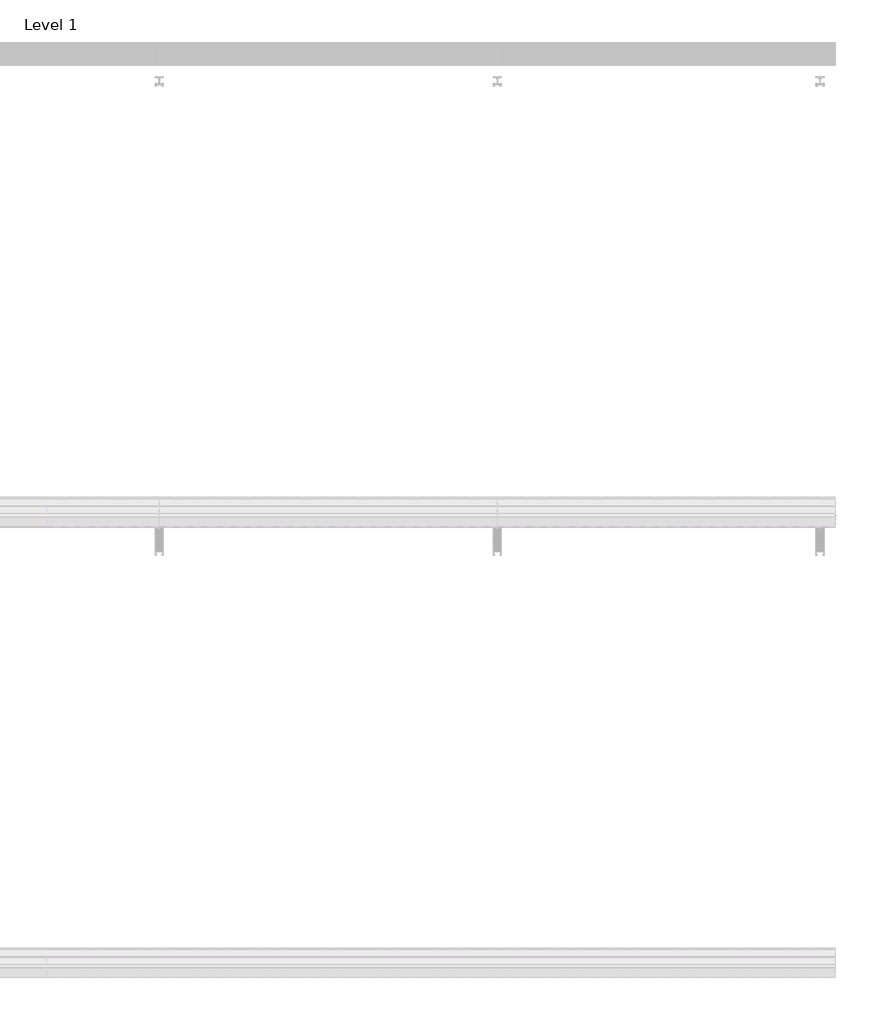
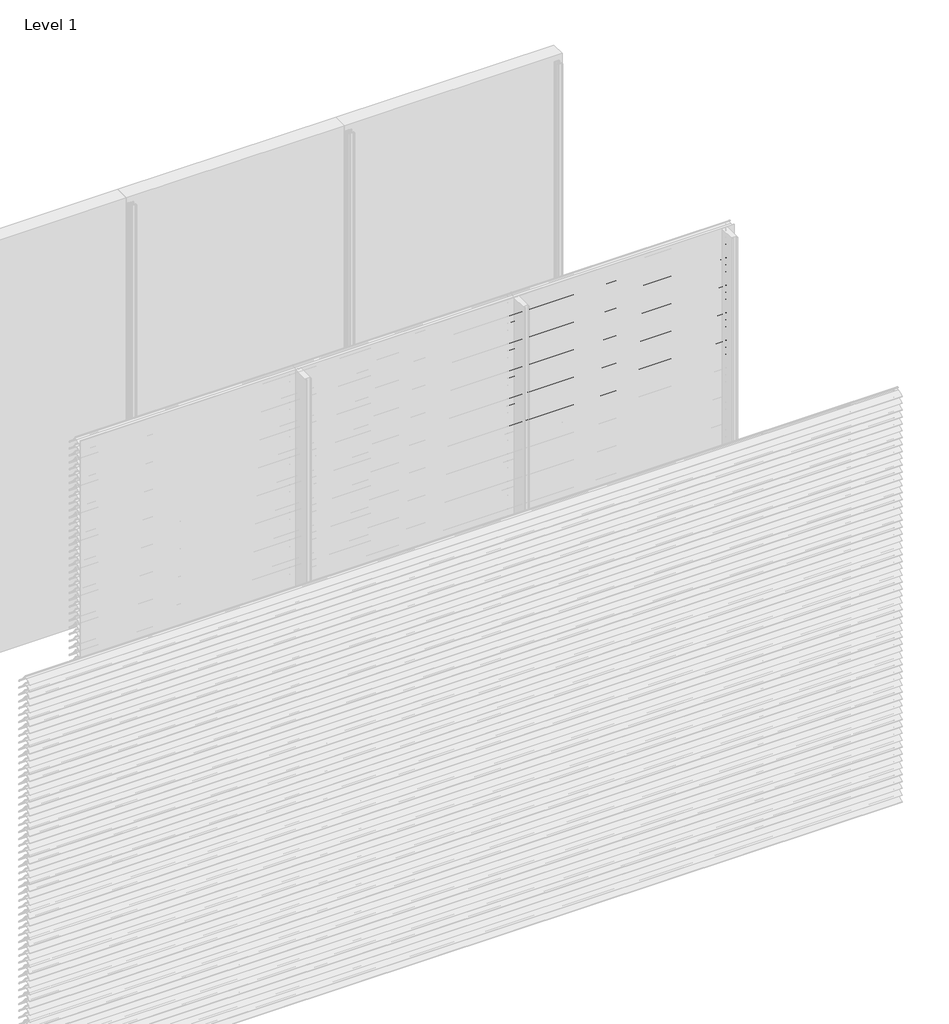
# One storey, part 34 of 173: 17 proxies.
"""IFC4 building model written with IfcOpenShell, lengths in millimetres."""

from ifc_helpers import new_model, si_unit, point, frame, frame_2d, origin, place, context, project, spatial, polyline, circle_curve, trimmed, segment, composite_curve, outline, extrude, element, save

model = new_model("IFC4")

# Units and contexts
model_context = context("Model", 3, world=origin())
ifc_project = project(units=[si_unit("LENGTHUNIT", "METRE", prefix="MILLI")], contexts=[model_context])

# Site, building, storey
site = spatial("IfcSite", under=ifc_project)
building = spatial("IfcBuilding", under=site)
storey = spatial("IfcBuildingStorey", under=building, Name="Level 1", Elevation=0.0)

# Proxies
placement = place(None, origin())
element("IfcBuildingElementProxy", 1, Name="Wall Sweeps", at=placement, inside=storey, context=model_context, shape_type="SweptSolid", body=[
    extrude(outline(composite_curve([segment(polyline([(-47998.0, 2809.1474905), (-47998.0, 2811.6227417)]), True, "CONTINUOUS"), segment(trimmed(circle_curve(frame_2d((-47951.2682172, 2766.2200208)), 65.1557103), [point((-47998.0, 2811.6227417))], [point((-47954.4014323, 2831.3003524))], False, "CARTESIAN"), True, "CONTINUOUS"), segment(polyline([(-47954.4014323, 2831.3003524), (-47934.8315836, 2831.3003524)]), True, "CONTINUOUS"), segment(trimmed(circle_curve(frame_2d((-47732.7329489, 2978.5533172)), 250.0545817), [point((-47934.8315836, 2831.3003524))], [point((-47941.4452143, 2840.8344583))], False, "CARTESIAN"), True, "CONTINUOUS"), segment(trimmed(circle_curve(frame_2d((-47953.2981792, 2835.1737835)), 13.1352966), [point((-47941.4452143, 2840.8344583))], [point((-47953.8171475, 2848.298824))], True, "CARTESIAN"), True, "CONTINUOUS"), segment(polyline([(-47953.8171475, 2848.298824), (-47953.8171475, 2850.0)]), True, "CONTINUOUS"), segment(trimmed(circle_curve(frame_2d((-47953.2981792, 2835.1737835)), 14.8352966), [point((-47953.8171475, 2850.0))], [point((-47939.9637661, 2841.6760487))], False, "CARTESIAN"), True, "CONTINUOUS"), segment(trimmed(circle_curve(frame_2d((-47732.7329489, 2978.5533172)), 248.3545817), [point((-47939.9637661, 2841.6760487))], [point((-47873.8787895, 2774.2059416))], True, "CARTESIAN"), True, "CONTINUOUS"), segment(trimmed(circle_curve(frame_2d((-47883.8147537, 2761.6649442)), 16.0), [point((-47873.8787895, 2774.2059416))], [point((-47867.8648347, 2760.4))], False, "CARTESIAN"), True, "CONTINUOUS"), segment(polyline([(-47867.8648347, 2760.4), (-47869.6712069, 2760.4)]), True, "CONTINUOUS"), segment(trimmed(circle_curve(frame_2d((-47883.8147537, 2761.6649442)), 14.2), [point((-47869.6712069, 2760.4))], [point((-47874.9518628, 2772.7594998))], True, "CARTESIAN"), True, "CONTINUOUS"), segment(trimmed(circle_curve(frame_2d((-47732.7329489, 2978.5533172)), 250.1545817), [point((-47874.9518628, 2772.7594998))], [point((-47933.7064024, 2829.6003524))], False, "CARTESIAN"), True, "CONTINUOUS"), segment(polyline([(-47933.7064024, 2829.6003524), (-47954.3602632, 2829.6003524)]), True, "CONTINUOUS"), segment(trimmed(circle_curve(frame_2d((-47951.2682172, 2766.2200208)), 63.4557103), [point((-47954.3602632, 2829.6003524))], [point((-47998.0, 2809.1474905))], True, "CARTESIAN"), True, "CONTINUOUS")], self_intersect=False)), frame((4500.0, 0.0, 0.0), z_axis=(1.0, 0.0, 0.0), x_axis=(0.0, 1.0, 0.0)), (0.0, 0.0, 1.0), 1500.0),
])
element("IfcBuildingElementProxy", 2, Name="Wall Sweeps", at=placement, inside=storey, context=model_context, shape_type="SweptSolid", body=[
    extrude(outline(composite_curve([segment(polyline([(-47998.0, 2759.1474905), (-47998.0, 2761.6227417)]), True, "CONTINUOUS"), segment(trimmed(circle_curve(frame_2d((-47951.2682172, 2716.2200208)), 65.1557103), [point((-47998.0, 2761.6227417))], [point((-47954.4014323, 2781.3003524))], False, "CARTESIAN"), True, "CONTINUOUS"), segment(polyline([(-47954.4014323, 2781.3003524), (-47934.8315836, 2781.3003524)]), True, "CONTINUOUS"), segment(trimmed(circle_curve(frame_2d((-47732.7329489, 2928.5533172)), 250.0545817), [point((-47934.8315836, 2781.3003524))], [point((-47941.4452143, 2790.8344583))], False, "CARTESIAN"), True, "CONTINUOUS"), segment(trimmed(circle_curve(frame_2d((-47953.2981792, 2785.1737835)), 13.1352966), [point((-47941.4452143, 2790.8344583))], [point((-47953.8171475, 2798.298824))], True, "CARTESIAN"), True, "CONTINUOUS"), segment(polyline([(-47953.8171475, 2798.298824), (-47953.8171475, 2800.0)]), True, "CONTINUOUS"), segment(trimmed(circle_curve(frame_2d((-47953.2981792, 2785.1737835)), 14.8352966), [point((-47953.8171475, 2800.0))], [point((-47939.9637661, 2791.6760487))], False, "CARTESIAN"), True, "CONTINUOUS"), segment(trimmed(circle_curve(frame_2d((-47732.7329489, 2928.5533172)), 248.3545817), [point((-47939.9637661, 2791.6760487))], [point((-47873.8787895, 2724.2059416))], True, "CARTESIAN"), True, "CONTINUOUS"), segment(trimmed(circle_curve(frame_2d((-47883.8147537, 2711.6649442)), 16.0), [point((-47873.8787895, 2724.2059416))], [point((-47867.8648347, 2710.4))], False, "CARTESIAN"), True, "CONTINUOUS"), segment(polyline([(-47867.8648347, 2710.4), (-47869.6712069, 2710.4)]), True, "CONTINUOUS"), segment(trimmed(circle_curve(frame_2d((-47883.8147537, 2711.6649442)), 14.2), [point((-47869.6712069, 2710.4))], [point((-47874.9518628, 2722.7594998))], True, "CARTESIAN"), True, "CONTINUOUS"), segment(trimmed(circle_curve(frame_2d((-47732.7329489, 2928.5533172)), 250.1545817), [point((-47874.9518628, 2722.7594998))], [point((-47933.7064024, 2779.6003524))], False, "CARTESIAN"), True, "CONTINUOUS"), segment(polyline([(-47933.7064024, 2779.6003524), (-47954.3602632, 2779.6003524)]), True, "CONTINUOUS"), segment(trimmed(circle_curve(frame_2d((-47951.2682172, 2716.2200208)), 63.4557103), [point((-47954.3602632, 2779.6003524))], [point((-47998.0, 2759.1474905))], True, "CARTESIAN"), True, "CONTINUOUS")], self_intersect=False)), frame((4500.0, 0.0, 0.0), z_axis=(1.0, 0.0, 0.0), x_axis=(0.0, 1.0, 0.0)), (0.0, 0.0, 1.0), 1500.0),
])
element("IfcBuildingElementProxy", 3, Name="Wall Sweeps", at=placement, inside=storey, context=model_context, shape_type="SweptSolid", body=[
    extrude(outline(composite_curve([segment(polyline([(-47998.0, 2709.1474905), (-47998.0, 2711.6227417)]), True, "CONTINUOUS"), segment(trimmed(circle_curve(frame_2d((-47951.2682172, 2666.2200208)), 65.1557103), [point((-47998.0, 2711.6227417))], [point((-47954.4014323, 2731.3003524))], False, "CARTESIAN"), True, "CONTINUOUS"), segment(polyline([(-47954.4014323, 2731.3003524), (-47934.8315836, 2731.3003524)]), True, "CONTINUOUS"), segment(trimmed(circle_curve(frame_2d((-47732.7329489, 2878.5533172)), 250.0545817), [point((-47934.8315836, 2731.3003524))], [point((-47941.4452143, 2740.8344583))], False, "CARTESIAN"), True, "CONTINUOUS"), segment(trimmed(circle_curve(frame_2d((-47953.2981792, 2735.1737835)), 13.1352966), [point((-47941.4452143, 2740.8344583))], [point((-47953.8171475, 2748.298824))], True, "CARTESIAN"), True, "CONTINUOUS"), segment(polyline([(-47953.8171475, 2748.298824), (-47953.8171475, 2750.0)]), True, "CONTINUOUS"), segment(trimmed(circle_curve(frame_2d((-47953.2981792, 2735.1737835)), 14.8352966), [point((-47953.8171475, 2750.0))], [point((-47939.9637661, 2741.6760487))], False, "CARTESIAN"), True, "CONTINUOUS"), segment(trimmed(circle_curve(frame_2d((-47732.7329489, 2878.5533172)), 248.3545817), [point((-47939.9637661, 2741.6760487))], [point((-47873.8787895, 2674.2059416))], True, "CARTESIAN"), True, "CONTINUOUS"), segment(trimmed(circle_curve(frame_2d((-47883.8147537, 2661.6649442)), 16.0), [point((-47873.8787895, 2674.2059416))], [point((-47867.8648347, 2660.4))], False, "CARTESIAN"), True, "CONTINUOUS"), segment(polyline([(-47867.8648347, 2660.4), (-47869.6712069, 2660.4)]), True, "CONTINUOUS"), segment(trimmed(circle_curve(frame_2d((-47883.8147537, 2661.6649442)), 14.2), [point((-47869.6712069, 2660.4))], [point((-47874.9518628, 2672.7594998))], True, "CARTESIAN"), True, "CONTINUOUS"), segment(trimmed(circle_curve(frame_2d((-47732.7329489, 2878.5533172)), 250.1545817), [point((-47874.9518628, 2672.7594998))], [point((-47933.7064024, 2729.6003524))], False, "CARTESIAN"), True, "CONTINUOUS"), segment(polyline([(-47933.7064024, 2729.6003524), (-47954.3602632, 2729.6003524)]), True, "CONTINUOUS"), segment(trimmed(circle_curve(frame_2d((-47951.2682172, 2666.2200208)), 63.4557103), [point((-47954.3602632, 2729.6003524))], [point((-47998.0, 2709.1474905))], True, "CARTESIAN"), True, "CONTINUOUS")], self_intersect=False)), frame((4500.0, 0.0, 0.0), z_axis=(1.0, 0.0, 0.0), x_axis=(0.0, 1.0, 0.0)), (0.0, 0.0, 1.0), 1500.0),
])
element("IfcBuildingElementProxy", 4, Name="Wall Sweeps", at=placement, inside=storey, context=model_context, shape_type="SweptSolid", body=[
    extrude(outline(composite_curve([segment(polyline([(-47998.0, 2659.1474905), (-47998.0, 2661.6227417)]), True, "CONTINUOUS"), segment(trimmed(circle_curve(frame_2d((-47951.2682172, 2616.2200208)), 65.1557103), [point((-47998.0, 2661.6227417))], [point((-47954.4014323, 2681.3003524))], False, "CARTESIAN"), True, "CONTINUOUS"), segment(polyline([(-47954.4014323, 2681.3003524), (-47934.8315836, 2681.3003524)]), True, "CONTINUOUS"), segment(trimmed(circle_curve(frame_2d((-47732.7329489, 2828.5533172)), 250.0545817), [point((-47934.8315836, 2681.3003524))], [point((-47941.4452143, 2690.8344583))], False, "CARTESIAN"), True, "CONTINUOUS"), segment(trimmed(circle_curve(frame_2d((-47953.2981792, 2685.1737835)), 13.1352966), [point((-47941.4452143, 2690.8344583))], [point((-47953.8171475, 2698.298824))], True, "CARTESIAN"), True, "CONTINUOUS"), segment(polyline([(-47953.8171475, 2698.298824), (-47953.8171475, 2700.0)]), True, "CONTINUOUS"), segment(trimmed(circle_curve(frame_2d((-47953.2981792, 2685.1737835)), 14.8352966), [point((-47953.8171475, 2700.0))], [point((-47939.9637661, 2691.6760487))], False, "CARTESIAN"), True, "CONTINUOUS"), segment(trimmed(circle_curve(frame_2d((-47732.7329489, 2828.5533172)), 248.3545817), [point((-47939.9637661, 2691.6760487))], [point((-47873.8787895, 2624.2059416))], True, "CARTESIAN"), True, "CONTINUOUS"), segment(trimmed(circle_curve(frame_2d((-47883.8147537, 2611.6649442)), 16.0), [point((-47873.8787895, 2624.2059416))], [point((-47867.8648347, 2610.4))], False, "CARTESIAN"), True, "CONTINUOUS"), segment(polyline([(-47867.8648347, 2610.4), (-47869.6712069, 2610.4)]), True, "CONTINUOUS"), segment(trimmed(circle_curve(frame_2d((-47883.8147537, 2611.6649442)), 14.2), [point((-47869.6712069, 2610.4))], [point((-47874.9518628, 2622.7594998))], True, "CARTESIAN"), True, "CONTINUOUS"), segment(trimmed(circle_curve(frame_2d((-47732.7329489, 2828.5533172)), 250.1545817), [point((-47874.9518628, 2622.7594998))], [point((-47933.7064024, 2679.6003524))], False, "CARTESIAN"), True, "CONTINUOUS"), segment(polyline([(-47933.7064024, 2679.6003524), (-47954.3602632, 2679.6003524)]), True, "CONTINUOUS"), segment(trimmed(circle_curve(frame_2d((-47951.2682172, 2616.2200208)), 63.4557103), [point((-47954.3602632, 2679.6003524))], [point((-47998.0, 2659.1474905))], True, "CARTESIAN"), True, "CONTINUOUS")], self_intersect=False)), frame((4500.0, 0.0, 0.0), z_axis=(1.0, 0.0, 0.0), x_axis=(0.0, 1.0, 0.0)), (0.0, 0.0, 1.0), 1500.0),
])
element("IfcBuildingElementProxy", 5, Name="Wall Sweeps", at=placement, inside=storey, context=model_context, shape_type="SweptSolid", body=[
    extrude(outline(composite_curve([segment(polyline([(-47998.0, 2609.1474905), (-47998.0, 2611.6227417)]), True, "CONTINUOUS"), segment(trimmed(circle_curve(frame_2d((-47951.2682172, 2566.2200208)), 65.1557103), [point((-47998.0, 2611.6227417))], [point((-47954.4014323, 2631.3003524))], False, "CARTESIAN"), True, "CONTINUOUS"), segment(polyline([(-47954.4014323, 2631.3003524), (-47934.8315836, 2631.3003524)]), True, "CONTINUOUS"), segment(trimmed(circle_curve(frame_2d((-47732.7329489, 2778.5533172)), 250.0545817), [point((-47934.8315836, 2631.3003524))], [point((-47941.4452143, 2640.8344583))], False, "CARTESIAN"), True, "CONTINUOUS"), segment(trimmed(circle_curve(frame_2d((-47953.2981792, 2635.1737835)), 13.1352966), [point((-47941.4452143, 2640.8344583))], [point((-47953.8171475, 2648.298824))], True, "CARTESIAN"), True, "CONTINUOUS"), segment(polyline([(-47953.8171475, 2648.298824), (-47953.8171475, 2650.0)]), True, "CONTINUOUS"), segment(trimmed(circle_curve(frame_2d((-47953.2981792, 2635.1737835)), 14.8352966), [point((-47953.8171475, 2650.0))], [point((-47939.9637661, 2641.6760487))], False, "CARTESIAN"), True, "CONTINUOUS"), segment(trimmed(circle_curve(frame_2d((-47732.7329489, 2778.5533172)), 248.3545817), [point((-47939.9637661, 2641.6760487))], [point((-47873.8787895, 2574.2059416))], True, "CARTESIAN"), True, "CONTINUOUS"), segment(trimmed(circle_curve(frame_2d((-47883.8147537, 2561.6649442)), 16.0), [point((-47873.8787895, 2574.2059416))], [point((-47867.8648347, 2560.4))], False, "CARTESIAN"), True, "CONTINUOUS"), segment(polyline([(-47867.8648347, 2560.4), (-47869.6712069, 2560.4)]), True, "CONTINUOUS"), segment(trimmed(circle_curve(frame_2d((-47883.8147537, 2561.6649442)), 14.2), [point((-47869.6712069, 2560.4))], [point((-47874.9518628, 2572.7594998))], True, "CARTESIAN"), True, "CONTINUOUS"), segment(trimmed(circle_curve(frame_2d((-47732.7329489, 2778.5533172)), 250.1545817), [point((-47874.9518628, 2572.7594998))], [point((-47933.7064024, 2629.6003524))], False, "CARTESIAN"), True, "CONTINUOUS"), segment(polyline([(-47933.7064024, 2629.6003524), (-47954.3602632, 2629.6003524)]), True, "CONTINUOUS"), segment(trimmed(circle_curve(frame_2d((-47951.2682172, 2566.2200208)), 63.4557103), [point((-47954.3602632, 2629.6003524))], [point((-47998.0, 2609.1474905))], True, "CARTESIAN"), True, "CONTINUOUS")], self_intersect=False)), frame((4500.0, 0.0, 0.0), z_axis=(1.0, 0.0, 0.0), x_axis=(0.0, 1.0, 0.0)), (0.0, 0.0, 1.0), 1500.0),
])
element("IfcBuildingElementProxy", 6, Name="Wall Sweeps", at=placement, inside=storey, context=model_context, shape_type="SweptSolid", body=[
    extrude(outline(composite_curve([segment(polyline([(-47998.0, 2559.1474905), (-47998.0, 2561.6227417)]), True, "CONTINUOUS"), segment(trimmed(circle_curve(frame_2d((-47951.2682172, 2516.2200208)), 65.1557103), [point((-47998.0, 2561.6227417))], [point((-47954.4014323, 2581.3003524))], False, "CARTESIAN"), True, "CONTINUOUS"), segment(polyline([(-47954.4014323, 2581.3003524), (-47934.8315836, 2581.3003524)]), True, "CONTINUOUS"), segment(trimmed(circle_curve(frame_2d((-47732.7329489, 2728.5533172)), 250.0545817), [point((-47934.8315836, 2581.3003524))], [point((-47941.4452143, 2590.8344583))], False, "CARTESIAN"), True, "CONTINUOUS"), segment(trimmed(circle_curve(frame_2d((-47953.2981792, 2585.1737835)), 13.1352966), [point((-47941.4452143, 2590.8344583))], [point((-47953.8171475, 2598.298824))], True, "CARTESIAN"), True, "CONTINUOUS"), segment(polyline([(-47953.8171475, 2598.298824), (-47953.8171475, 2600.0)]), True, "CONTINUOUS"), segment(trimmed(circle_curve(frame_2d((-47953.2981792, 2585.1737835)), 14.8352966), [point((-47953.8171475, 2600.0))], [point((-47939.9637661, 2591.6760487))], False, "CARTESIAN"), True, "CONTINUOUS"), segment(trimmed(circle_curve(frame_2d((-47732.7329489, 2728.5533172)), 248.3545817), [point((-47939.9637661, 2591.6760487))], [point((-47873.8787895, 2524.2059416))], True, "CARTESIAN"), True, "CONTINUOUS"), segment(trimmed(circle_curve(frame_2d((-47883.8147537, 2511.6649442)), 16.0), [point((-47873.8787895, 2524.2059416))], [point((-47867.8648347, 2510.4))], False, "CARTESIAN"), True, "CONTINUOUS"), segment(polyline([(-47867.8648347, 2510.4), (-47869.6712069, 2510.4)]), True, "CONTINUOUS"), segment(trimmed(circle_curve(frame_2d((-47883.8147537, 2511.6649442)), 14.2), [point((-47869.6712069, 2510.4))], [point((-47874.9518628, 2522.7594998))], True, "CARTESIAN"), True, "CONTINUOUS"), segment(trimmed(circle_curve(frame_2d((-47732.7329489, 2728.5533172)), 250.1545817), [point((-47874.9518628, 2522.7594998))], [point((-47933.7064024, 2579.6003524))], False, "CARTESIAN"), True, "CONTINUOUS"), segment(polyline([(-47933.7064024, 2579.6003524), (-47954.3602632, 2579.6003524)]), True, "CONTINUOUS"), segment(trimmed(circle_curve(frame_2d((-47951.2682172, 2516.2200208)), 63.4557103), [point((-47954.3602632, 2579.6003524))], [point((-47998.0, 2559.1474905))], True, "CARTESIAN"), True, "CONTINUOUS")], self_intersect=False)), frame((4500.0, 0.0, 0.0), z_axis=(1.0, 0.0, 0.0), x_axis=(0.0, 1.0, 0.0)), (0.0, 0.0, 1.0), 1500.0),
])
element("IfcBuildingElementProxy", 7, Name="Wall Sweeps", at=placement, inside=storey, context=model_context, shape_type="SweptSolid", body=[
    extrude(outline(composite_curve([segment(polyline([(-47998.0, 2509.1474905), (-47998.0, 2511.6227417)]), True, "CONTINUOUS"), segment(trimmed(circle_curve(frame_2d((-47951.2682172, 2466.2200208)), 65.1557103), [point((-47998.0, 2511.6227417))], [point((-47954.4014323, 2531.3003524))], False, "CARTESIAN"), True, "CONTINUOUS"), segment(polyline([(-47954.4014323, 2531.3003524), (-47934.8315836, 2531.3003524)]), True, "CONTINUOUS"), segment(trimmed(circle_curve(frame_2d((-47732.7329489, 2678.5533172)), 250.0545817), [point((-47934.8315836, 2531.3003524))], [point((-47941.4452143, 2540.8344583))], False, "CARTESIAN"), True, "CONTINUOUS"), segment(trimmed(circle_curve(frame_2d((-47953.2981792, 2535.1737835)), 13.1352966), [point((-47941.4452143, 2540.8344583))], [point((-47953.8171475, 2548.298824))], True, "CARTESIAN"), True, "CONTINUOUS"), segment(polyline([(-47953.8171475, 2548.298824), (-47953.8171475, 2550.0)]), True, "CONTINUOUS"), segment(trimmed(circle_curve(frame_2d((-47953.2981792, 2535.1737835)), 14.8352966), [point((-47953.8171475, 2550.0))], [point((-47939.9637661, 2541.6760487))], False, "CARTESIAN"), True, "CONTINUOUS"), segment(trimmed(circle_curve(frame_2d((-47732.7329489, 2678.5533172)), 248.3545817), [point((-47939.9637661, 2541.6760487))], [point((-47873.8787895, 2474.2059416))], True, "CARTESIAN"), True, "CONTINUOUS"), segment(trimmed(circle_curve(frame_2d((-47883.8147537, 2461.6649442)), 16.0), [point((-47873.8787895, 2474.2059416))], [point((-47867.8648347, 2460.4))], False, "CARTESIAN"), True, "CONTINUOUS"), segment(polyline([(-47867.8648347, 2460.4), (-47869.6712069, 2460.4)]), True, "CONTINUOUS"), segment(trimmed(circle_curve(frame_2d((-47883.8147537, 2461.6649442)), 14.2), [point((-47869.6712069, 2460.4))], [point((-47874.9518628, 2472.7594998))], True, "CARTESIAN"), True, "CONTINUOUS"), segment(trimmed(circle_curve(frame_2d((-47732.7329489, 2678.5533172)), 250.1545817), [point((-47874.9518628, 2472.7594998))], [point((-47933.7064024, 2529.6003524))], False, "CARTESIAN"), True, "CONTINUOUS"), segment(polyline([(-47933.7064024, 2529.6003524), (-47954.3602632, 2529.6003524)]), True, "CONTINUOUS"), segment(trimmed(circle_curve(frame_2d((-47951.2682172, 2466.2200208)), 63.4557103), [point((-47954.3602632, 2529.6003524))], [point((-47998.0, 2509.1474905))], True, "CARTESIAN"), True, "CONTINUOUS")], self_intersect=False)), frame((4500.0, 0.0, 0.0), z_axis=(1.0, 0.0, 0.0), x_axis=(0.0, 1.0, 0.0)), (0.0, 0.0, 1.0), 1500.0),
])
element("IfcBuildingElementProxy", 8, Name="Wall Sweeps", at=placement, inside=storey, context=model_context, shape_type="SweptSolid", body=[
    extrude(outline(composite_curve([segment(polyline([(-47998.0, 2459.1474905), (-47998.0, 2461.6227417)]), True, "CONTINUOUS"), segment(trimmed(circle_curve(frame_2d((-47951.2682172, 2416.2200208)), 65.1557103), [point((-47998.0, 2461.6227417))], [point((-47954.4014323, 2481.3003524))], False, "CARTESIAN"), True, "CONTINUOUS"), segment(polyline([(-47954.4014323, 2481.3003524), (-47934.8315836, 2481.3003524)]), True, "CONTINUOUS"), segment(trimmed(circle_curve(frame_2d((-47732.7329489, 2628.5533172)), 250.0545817), [point((-47934.8315836, 2481.3003524))], [point((-47941.4452143, 2490.8344583))], False, "CARTESIAN"), True, "CONTINUOUS"), segment(trimmed(circle_curve(frame_2d((-47953.2981792, 2485.1737835)), 13.1352966), [point((-47941.4452143, 2490.8344583))], [point((-47953.8171475, 2498.298824))], True, "CARTESIAN"), True, "CONTINUOUS"), segment(polyline([(-47953.8171475, 2498.298824), (-47953.8171475, 2500.0)]), True, "CONTINUOUS"), segment(trimmed(circle_curve(frame_2d((-47953.2981792, 2485.1737835)), 14.8352966), [point((-47953.8171475, 2500.0))], [point((-47939.9637661, 2491.6760487))], False, "CARTESIAN"), True, "CONTINUOUS"), segment(trimmed(circle_curve(frame_2d((-47732.7329489, 2628.5533172)), 248.3545817), [point((-47939.9637661, 2491.6760487))], [point((-47873.8787895, 2424.2059416))], True, "CARTESIAN"), True, "CONTINUOUS"), segment(trimmed(circle_curve(frame_2d((-47883.8147537, 2411.6649442)), 16.0), [point((-47873.8787895, 2424.2059416))], [point((-47867.8648347, 2410.4))], False, "CARTESIAN"), True, "CONTINUOUS"), segment(polyline([(-47867.8648347, 2410.4), (-47869.6712069, 2410.4)]), True, "CONTINUOUS"), segment(trimmed(circle_curve(frame_2d((-47883.8147537, 2411.6649442)), 14.2), [point((-47869.6712069, 2410.4))], [point((-47874.9518628, 2422.7594998))], True, "CARTESIAN"), True, "CONTINUOUS"), segment(trimmed(circle_curve(frame_2d((-47732.7329489, 2628.5533172)), 250.1545817), [point((-47874.9518628, 2422.7594998))], [point((-47933.7064024, 2479.6003524))], False, "CARTESIAN"), True, "CONTINUOUS"), segment(polyline([(-47933.7064024, 2479.6003524), (-47954.3602632, 2479.6003524)]), True, "CONTINUOUS"), segment(trimmed(circle_curve(frame_2d((-47951.2682172, 2416.2200208)), 63.4557103), [point((-47954.3602632, 2479.6003524))], [point((-47998.0, 2459.1474905))], True, "CARTESIAN"), True, "CONTINUOUS")], self_intersect=False)), frame((4500.0, 0.0, 0.0), z_axis=(1.0, 0.0, 0.0), x_axis=(0.0, 1.0, 0.0)), (0.0, 0.0, 1.0), 1500.0),
])
element("IfcBuildingElementProxy", 9, Name="Wall Sweeps", at=placement, inside=storey, context=model_context, shape_type="SweptSolid", body=[
    extrude(outline(composite_curve([segment(polyline([(-47998.0, 2409.1474905), (-47998.0, 2411.6227417)]), True, "CONTINUOUS"), segment(trimmed(circle_curve(frame_2d((-47951.2682172, 2366.2200208)), 65.1557103), [point((-47998.0, 2411.6227417))], [point((-47954.4014323, 2431.3003524))], False, "CARTESIAN"), True, "CONTINUOUS"), segment(polyline([(-47954.4014323, 2431.3003524), (-47934.8315836, 2431.3003524)]), True, "CONTINUOUS"), segment(trimmed(circle_curve(frame_2d((-47732.7329489, 2578.5533172)), 250.0545817), [point((-47934.8315836, 2431.3003524))], [point((-47941.4452143, 2440.8344583))], False, "CARTESIAN"), True, "CONTINUOUS"), segment(trimmed(circle_curve(frame_2d((-47953.2981792, 2435.1737835)), 13.1352966), [point((-47941.4452143, 2440.8344583))], [point((-47953.8171475, 2448.298824))], True, "CARTESIAN"), True, "CONTINUOUS"), segment(polyline([(-47953.8171475, 2448.298824), (-47953.8171475, 2450.0)]), True, "CONTINUOUS"), segment(trimmed(circle_curve(frame_2d((-47953.2981792, 2435.1737835)), 14.8352966), [point((-47953.8171475, 2450.0))], [point((-47939.9637661, 2441.6760487))], False, "CARTESIAN"), True, "CONTINUOUS"), segment(trimmed(circle_curve(frame_2d((-47732.7329489, 2578.5533172)), 248.3545817), [point((-47939.9637661, 2441.6760487))], [point((-47873.8787895, 2374.2059416))], True, "CARTESIAN"), True, "CONTINUOUS"), segment(trimmed(circle_curve(frame_2d((-47883.8147537, 2361.6649442)), 16.0), [point((-47873.8787895, 2374.2059416))], [point((-47867.8648347, 2360.4))], False, "CARTESIAN"), True, "CONTINUOUS"), segment(polyline([(-47867.8648347, 2360.4), (-47869.6712069, 2360.4)]), True, "CONTINUOUS"), segment(trimmed(circle_curve(frame_2d((-47883.8147537, 2361.6649442)), 14.2), [point((-47869.6712069, 2360.4))], [point((-47874.9518628, 2372.7594998))], True, "CARTESIAN"), True, "CONTINUOUS"), segment(trimmed(circle_curve(frame_2d((-47732.7329489, 2578.5533172)), 250.1545817), [point((-47874.9518628, 2372.7594998))], [point((-47933.7064024, 2429.6003524))], False, "CARTESIAN"), True, "CONTINUOUS"), segment(polyline([(-47933.7064024, 2429.6003524), (-47954.3602632, 2429.6003524)]), True, "CONTINUOUS"), segment(trimmed(circle_curve(frame_2d((-47951.2682172, 2366.2200208)), 63.4557103), [point((-47954.3602632, 2429.6003524))], [point((-47998.0, 2409.1474905))], True, "CARTESIAN"), True, "CONTINUOUS")], self_intersect=False)), frame((4500.0, 0.0, 0.0), z_axis=(1.0, 0.0, 0.0), x_axis=(0.0, 1.0, 0.0)), (0.0, 0.0, 1.0), 1500.0),
])
element("IfcBuildingElementProxy", 10, Name="Wall Sweeps", at=placement, inside=storey, context=model_context, shape_type="SweptSolid", body=[
    extrude(outline(composite_curve([segment(polyline([(-47998.0, 2359.1474905), (-47998.0, 2361.6227417)]), True, "CONTINUOUS"), segment(trimmed(circle_curve(frame_2d((-47951.2682172, 2316.2200208)), 65.1557103), [point((-47998.0, 2361.6227417))], [point((-47954.4014323, 2381.3003524))], False, "CARTESIAN"), True, "CONTINUOUS"), segment(polyline([(-47954.4014323, 2381.3003524), (-47934.8315836, 2381.3003524)]), True, "CONTINUOUS"), segment(trimmed(circle_curve(frame_2d((-47732.7329489, 2528.5533172)), 250.0545817), [point((-47934.8315836, 2381.3003524))], [point((-47941.4452143, 2390.8344583))], False, "CARTESIAN"), True, "CONTINUOUS"), segment(trimmed(circle_curve(frame_2d((-47953.2981792, 2385.1737835)), 13.1352966), [point((-47941.4452143, 2390.8344583))], [point((-47953.8171475, 2398.298824))], True, "CARTESIAN"), True, "CONTINUOUS"), segment(polyline([(-47953.8171475, 2398.298824), (-47953.8171475, 2400.0)]), True, "CONTINUOUS"), segment(trimmed(circle_curve(frame_2d((-47953.2981792, 2385.1737835)), 14.8352966), [point((-47953.8171475, 2400.0))], [point((-47939.9637661, 2391.6760487))], False, "CARTESIAN"), True, "CONTINUOUS"), segment(trimmed(circle_curve(frame_2d((-47732.7329489, 2528.5533172)), 248.3545817), [point((-47939.9637661, 2391.6760487))], [point((-47873.8787895, 2324.2059416))], True, "CARTESIAN"), True, "CONTINUOUS"), segment(trimmed(circle_curve(frame_2d((-47883.8147537, 2311.6649442)), 16.0), [point((-47873.8787895, 2324.2059416))], [point((-47867.8648347, 2310.4))], False, "CARTESIAN"), True, "CONTINUOUS"), segment(polyline([(-47867.8648347, 2310.4), (-47869.6712069, 2310.4)]), True, "CONTINUOUS"), segment(trimmed(circle_curve(frame_2d((-47883.8147537, 2311.6649442)), 14.2), [point((-47869.6712069, 2310.4))], [point((-47874.9518628, 2322.7594998))], True, "CARTESIAN"), True, "CONTINUOUS"), segment(trimmed(circle_curve(frame_2d((-47732.7329489, 2528.5533172)), 250.1545817), [point((-47874.9518628, 2322.7594998))], [point((-47933.7064024, 2379.6003524))], False, "CARTESIAN"), True, "CONTINUOUS"), segment(polyline([(-47933.7064024, 2379.6003524), (-47954.3602632, 2379.6003524)]), True, "CONTINUOUS"), segment(trimmed(circle_curve(frame_2d((-47951.2682172, 2316.2200208)), 63.4557103), [point((-47954.3602632, 2379.6003524))], [point((-47998.0, 2359.1474905))], True, "CARTESIAN"), True, "CONTINUOUS")], self_intersect=False)), frame((4500.0, 0.0, 0.0), z_axis=(1.0, 0.0, 0.0), x_axis=(0.0, 1.0, 0.0)), (0.0, 0.0, 1.0), 1500.0),
])
element("IfcBuildingElementProxy", 11, Name="Wall Sweeps", at=placement, inside=storey, context=model_context, shape_type="SweptSolid", body=[
    extrude(outline(composite_curve([segment(polyline([(-47998.0, 2309.1474905), (-47998.0, 2311.6227417)]), True, "CONTINUOUS"), segment(trimmed(circle_curve(frame_2d((-47951.2682172, 2266.2200208)), 65.1557103), [point((-47998.0, 2311.6227417))], [point((-47954.4014323, 2331.3003524))], False, "CARTESIAN"), True, "CONTINUOUS"), segment(polyline([(-47954.4014323, 2331.3003524), (-47934.8315836, 2331.3003524)]), True, "CONTINUOUS"), segment(trimmed(circle_curve(frame_2d((-47732.7329489, 2478.5533172)), 250.0545817), [point((-47934.8315836, 2331.3003524))], [point((-47941.4452143, 2340.8344583))], False, "CARTESIAN"), True, "CONTINUOUS"), segment(trimmed(circle_curve(frame_2d((-47953.2981792, 2335.1737835)), 13.1352966), [point((-47941.4452143, 2340.8344583))], [point((-47953.8171475, 2348.298824))], True, "CARTESIAN"), True, "CONTINUOUS"), segment(polyline([(-47953.8171475, 2348.298824), (-47953.8171475, 2350.0)]), True, "CONTINUOUS"), segment(trimmed(circle_curve(frame_2d((-47953.2981792, 2335.1737835)), 14.8352966), [point((-47953.8171475, 2350.0))], [point((-47939.9637661, 2341.6760487))], False, "CARTESIAN"), True, "CONTINUOUS"), segment(trimmed(circle_curve(frame_2d((-47732.7329489, 2478.5533172)), 248.3545817), [point((-47939.9637661, 2341.6760487))], [point((-47873.8787895, 2274.2059416))], True, "CARTESIAN"), True, "CONTINUOUS"), segment(trimmed(circle_curve(frame_2d((-47883.8147537, 2261.6649442)), 16.0), [point((-47873.8787895, 2274.2059416))], [point((-47867.8648347, 2260.4))], False, "CARTESIAN"), True, "CONTINUOUS"), segment(polyline([(-47867.8648347, 2260.4), (-47869.6712069, 2260.4)]), True, "CONTINUOUS"), segment(trimmed(circle_curve(frame_2d((-47883.8147537, 2261.6649442)), 14.2), [point((-47869.6712069, 2260.4))], [point((-47874.9518628, 2272.7594998))], True, "CARTESIAN"), True, "CONTINUOUS"), segment(trimmed(circle_curve(frame_2d((-47732.7329489, 2478.5533172)), 250.1545817), [point((-47874.9518628, 2272.7594998))], [point((-47933.7064024, 2329.6003524))], False, "CARTESIAN"), True, "CONTINUOUS"), segment(polyline([(-47933.7064024, 2329.6003524), (-47954.3602632, 2329.6003524)]), True, "CONTINUOUS"), segment(trimmed(circle_curve(frame_2d((-47951.2682172, 2266.2200208)), 63.4557103), [point((-47954.3602632, 2329.6003524))], [point((-47998.0, 2309.1474905))], True, "CARTESIAN"), True, "CONTINUOUS")], self_intersect=False)), frame((4500.0, 0.0, 0.0), z_axis=(1.0, 0.0, 0.0), x_axis=(0.0, 1.0, 0.0)), (0.0, 0.0, 1.0), 1500.0),
])
element("IfcBuildingElementProxy", 12, Name="Wall Sweeps", at=placement, inside=storey, context=model_context, shape_type="SweptSolid", body=[
    extrude(outline(composite_curve([segment(polyline([(-47998.0, 2259.1474905), (-47998.0, 2261.6227417)]), True, "CONTINUOUS"), segment(trimmed(circle_curve(frame_2d((-47951.2682172, 2216.2200208)), 65.1557103), [point((-47998.0, 2261.6227417))], [point((-47954.4014323, 2281.3003524))], False, "CARTESIAN"), True, "CONTINUOUS"), segment(polyline([(-47954.4014323, 2281.3003524), (-47934.8315836, 2281.3003524)]), True, "CONTINUOUS"), segment(trimmed(circle_curve(frame_2d((-47732.7329489, 2428.5533172)), 250.0545817), [point((-47934.8315836, 2281.3003524))], [point((-47941.4452143, 2290.8344583))], False, "CARTESIAN"), True, "CONTINUOUS"), segment(trimmed(circle_curve(frame_2d((-47953.2981792, 2285.1737835)), 13.1352966), [point((-47941.4452143, 2290.8344583))], [point((-47953.8171475, 2298.298824))], True, "CARTESIAN"), True, "CONTINUOUS"), segment(polyline([(-47953.8171475, 2298.298824), (-47953.8171475, 2300.0)]), True, "CONTINUOUS"), segment(trimmed(circle_curve(frame_2d((-47953.2981792, 2285.1737835)), 14.8352966), [point((-47953.8171475, 2300.0))], [point((-47939.9637661, 2291.6760487))], False, "CARTESIAN"), True, "CONTINUOUS"), segment(trimmed(circle_curve(frame_2d((-47732.7329489, 2428.5533172)), 248.3545817), [point((-47939.9637661, 2291.6760487))], [point((-47873.8787895, 2224.2059416))], True, "CARTESIAN"), True, "CONTINUOUS"), segment(trimmed(circle_curve(frame_2d((-47883.8147537, 2211.6649442)), 16.0), [point((-47873.8787895, 2224.2059416))], [point((-47867.8648347, 2210.4))], False, "CARTESIAN"), True, "CONTINUOUS"), segment(polyline([(-47867.8648347, 2210.4), (-47869.6712069, 2210.4)]), True, "CONTINUOUS"), segment(trimmed(circle_curve(frame_2d((-47883.8147537, 2211.6649442)), 14.2), [point((-47869.6712069, 2210.4))], [point((-47874.9518628, 2222.7594998))], True, "CARTESIAN"), True, "CONTINUOUS"), segment(trimmed(circle_curve(frame_2d((-47732.7329489, 2428.5533172)), 250.1545817), [point((-47874.9518628, 2222.7594998))], [point((-47933.7064024, 2279.6003524))], False, "CARTESIAN"), True, "CONTINUOUS"), segment(polyline([(-47933.7064024, 2279.6003524), (-47954.3602632, 2279.6003524)]), True, "CONTINUOUS"), segment(trimmed(circle_curve(frame_2d((-47951.2682172, 2216.2200208)), 63.4557103), [point((-47954.3602632, 2279.6003524))], [point((-47998.0, 2259.1474905))], True, "CARTESIAN"), True, "CONTINUOUS")], self_intersect=False)), frame((4500.0, 0.0, 0.0), z_axis=(1.0, 0.0, 0.0), x_axis=(0.0, 1.0, 0.0)), (0.0, 0.0, 1.0), 1500.0),
])
element("IfcBuildingElementProxy", 13, Name="Wall Sweeps", at=placement, inside=storey, context=model_context, shape_type="SweptSolid", body=[
    extrude(outline(composite_curve([segment(polyline([(-47998.0, 2209.1474905), (-47998.0, 2211.6227417)]), True, "CONTINUOUS"), segment(trimmed(circle_curve(frame_2d((-47951.2682172, 2166.2200208)), 65.1557103), [point((-47998.0, 2211.6227417))], [point((-47954.4014323, 2231.3003524))], False, "CARTESIAN"), True, "CONTINUOUS"), segment(polyline([(-47954.4014323, 2231.3003524), (-47934.8315836, 2231.3003524)]), True, "CONTINUOUS"), segment(trimmed(circle_curve(frame_2d((-47732.7329489, 2378.5533172)), 250.0545817), [point((-47934.8315836, 2231.3003524))], [point((-47941.4452143, 2240.8344583))], False, "CARTESIAN"), True, "CONTINUOUS"), segment(trimmed(circle_curve(frame_2d((-47953.2981792, 2235.1737835)), 13.1352966), [point((-47941.4452143, 2240.8344583))], [point((-47953.8171475, 2248.298824))], True, "CARTESIAN"), True, "CONTINUOUS"), segment(polyline([(-47953.8171475, 2248.298824), (-47953.8171475, 2250.0)]), True, "CONTINUOUS"), segment(trimmed(circle_curve(frame_2d((-47953.2981792, 2235.1737835)), 14.8352966), [point((-47953.8171475, 2250.0))], [point((-47939.9637661, 2241.6760487))], False, "CARTESIAN"), True, "CONTINUOUS"), segment(trimmed(circle_curve(frame_2d((-47732.7329489, 2378.5533172)), 248.3545817), [point((-47939.9637661, 2241.6760487))], [point((-47873.8787895, 2174.2059416))], True, "CARTESIAN"), True, "CONTINUOUS"), segment(trimmed(circle_curve(frame_2d((-47883.8147537, 2161.6649442)), 16.0), [point((-47873.8787895, 2174.2059416))], [point((-47867.8648347, 2160.4))], False, "CARTESIAN"), True, "CONTINUOUS"), segment(polyline([(-47867.8648347, 2160.4), (-47869.6712069, 2160.4)]), True, "CONTINUOUS"), segment(trimmed(circle_curve(frame_2d((-47883.8147537, 2161.6649442)), 14.2), [point((-47869.6712069, 2160.4))], [point((-47874.9518628, 2172.7594998))], True, "CARTESIAN"), True, "CONTINUOUS"), segment(trimmed(circle_curve(frame_2d((-47732.7329489, 2378.5533172)), 250.1545817), [point((-47874.9518628, 2172.7594998))], [point((-47933.7064024, 2229.6003524))], False, "CARTESIAN"), True, "CONTINUOUS"), segment(polyline([(-47933.7064024, 2229.6003524), (-47954.3602632, 2229.6003524)]), True, "CONTINUOUS"), segment(trimmed(circle_curve(frame_2d((-47951.2682172, 2166.2200208)), 63.4557103), [point((-47954.3602632, 2229.6003524))], [point((-47998.0, 2209.1474905))], True, "CARTESIAN"), True, "CONTINUOUS")], self_intersect=False)), frame((4500.0, 0.0, 0.0), z_axis=(1.0, 0.0, 0.0), x_axis=(0.0, 1.0, 0.0)), (0.0, 0.0, 1.0), 1500.0),
])
element("IfcBuildingElementProxy", 14, Name="Wall Sweeps", at=placement, inside=storey, context=model_context, shape_type="SweptSolid", body=[
    extrude(outline(composite_curve([segment(polyline([(-47998.0, 2159.1474905), (-47998.0, 2161.6227417)]), True, "CONTINUOUS"), segment(trimmed(circle_curve(frame_2d((-47951.2682172, 2116.2200208)), 65.1557103), [point((-47998.0, 2161.6227417))], [point((-47954.4014323, 2181.3003524))], False, "CARTESIAN"), True, "CONTINUOUS"), segment(polyline([(-47954.4014323, 2181.3003524), (-47934.8315836, 2181.3003524)]), True, "CONTINUOUS"), segment(trimmed(circle_curve(frame_2d((-47732.7329489, 2328.5533172)), 250.0545817), [point((-47934.8315836, 2181.3003524))], [point((-47941.4452143, 2190.8344583))], False, "CARTESIAN"), True, "CONTINUOUS"), segment(trimmed(circle_curve(frame_2d((-47953.2981792, 2185.1737835)), 13.1352966), [point((-47941.4452143, 2190.8344583))], [point((-47953.8171475, 2198.298824))], True, "CARTESIAN"), True, "CONTINUOUS"), segment(polyline([(-47953.8171475, 2198.298824), (-47953.8171475, 2200.0)]), True, "CONTINUOUS"), segment(trimmed(circle_curve(frame_2d((-47953.2981792, 2185.1737835)), 14.8352966), [point((-47953.8171475, 2200.0))], [point((-47939.9637661, 2191.6760487))], False, "CARTESIAN"), True, "CONTINUOUS"), segment(trimmed(circle_curve(frame_2d((-47732.7329489, 2328.5533172)), 248.3545817), [point((-47939.9637661, 2191.6760487))], [point((-47873.8787895, 2124.2059416))], True, "CARTESIAN"), True, "CONTINUOUS"), segment(trimmed(circle_curve(frame_2d((-47883.8147537, 2111.6649442)), 16.0), [point((-47873.8787895, 2124.2059416))], [point((-47867.8648347, 2110.4))], False, "CARTESIAN"), True, "CONTINUOUS"), segment(polyline([(-47867.8648347, 2110.4), (-47869.6712069, 2110.4)]), True, "CONTINUOUS"), segment(trimmed(circle_curve(frame_2d((-47883.8147537, 2111.6649442)), 14.2), [point((-47869.6712069, 2110.4))], [point((-47874.9518628, 2122.7594998))], True, "CARTESIAN"), True, "CONTINUOUS"), segment(trimmed(circle_curve(frame_2d((-47732.7329489, 2328.5533172)), 250.1545817), [point((-47874.9518628, 2122.7594998))], [point((-47933.7064024, 2179.6003524))], False, "CARTESIAN"), True, "CONTINUOUS"), segment(polyline([(-47933.7064024, 2179.6003524), (-47954.3602632, 2179.6003524)]), True, "CONTINUOUS"), segment(trimmed(circle_curve(frame_2d((-47951.2682172, 2116.2200208)), 63.4557103), [point((-47954.3602632, 2179.6003524))], [point((-47998.0, 2159.1474905))], True, "CARTESIAN"), True, "CONTINUOUS")], self_intersect=False)), frame((4500.0, 0.0, 0.0), z_axis=(1.0, 0.0, 0.0), x_axis=(0.0, 1.0, 0.0)), (0.0, 0.0, 1.0), 1500.0),
])
element("IfcBuildingElementProxy", 15, Name="Wall Sweeps", at=placement, inside=storey, context=model_context, shape_type="SweptSolid", body=[
    extrude(outline(composite_curve([segment(polyline([(-47998.0, 2109.1474905), (-47998.0, 2111.6227417)]), True, "CONTINUOUS"), segment(trimmed(circle_curve(frame_2d((-47951.2682172, 2066.2200208)), 65.1557103), [point((-47998.0, 2111.6227417))], [point((-47954.4014323, 2131.3003524))], False, "CARTESIAN"), True, "CONTINUOUS"), segment(polyline([(-47954.4014323, 2131.3003524), (-47934.8315836, 2131.3003524)]), True, "CONTINUOUS"), segment(trimmed(circle_curve(frame_2d((-47732.7329489, 2278.5533172)), 250.0545817), [point((-47934.8315836, 2131.3003524))], [point((-47941.4452143, 2140.8344583))], False, "CARTESIAN"), True, "CONTINUOUS"), segment(trimmed(circle_curve(frame_2d((-47953.2981792, 2135.1737835)), 13.1352966), [point((-47941.4452143, 2140.8344583))], [point((-47953.8171475, 2148.298824))], True, "CARTESIAN"), True, "CONTINUOUS"), segment(polyline([(-47953.8171475, 2148.298824), (-47953.8171475, 2150.0)]), True, "CONTINUOUS"), segment(trimmed(circle_curve(frame_2d((-47953.2981792, 2135.1737835)), 14.8352966), [point((-47953.8171475, 2150.0))], [point((-47939.9637661, 2141.6760487))], False, "CARTESIAN"), True, "CONTINUOUS"), segment(trimmed(circle_curve(frame_2d((-47732.7329489, 2278.5533172)), 248.3545817), [point((-47939.9637661, 2141.6760487))], [point((-47873.8787895, 2074.2059416))], True, "CARTESIAN"), True, "CONTINUOUS"), segment(trimmed(circle_curve(frame_2d((-47883.8147537, 2061.6649442)), 16.0), [point((-47873.8787895, 2074.2059416))], [point((-47867.8648347, 2060.4))], False, "CARTESIAN"), True, "CONTINUOUS"), segment(polyline([(-47867.8648347, 2060.4), (-47869.6712069, 2060.4)]), True, "CONTINUOUS"), segment(trimmed(circle_curve(frame_2d((-47883.8147537, 2061.6649442)), 14.2), [point((-47869.6712069, 2060.4))], [point((-47874.9518628, 2072.7594998))], True, "CARTESIAN"), True, "CONTINUOUS"), segment(trimmed(circle_curve(frame_2d((-47732.7329489, 2278.5533172)), 250.1545817), [point((-47874.9518628, 2072.7594998))], [point((-47933.7064024, 2129.6003524))], False, "CARTESIAN"), True, "CONTINUOUS"), segment(polyline([(-47933.7064024, 2129.6003524), (-47954.3602632, 2129.6003524)]), True, "CONTINUOUS"), segment(trimmed(circle_curve(frame_2d((-47951.2682172, 2066.2200208)), 63.4557103), [point((-47954.3602632, 2129.6003524))], [point((-47998.0, 2109.1474905))], True, "CARTESIAN"), True, "CONTINUOUS")], self_intersect=False)), frame((4500.0, 0.0, 0.0), z_axis=(1.0, 0.0, 0.0), x_axis=(0.0, 1.0, 0.0)), (0.0, 0.0, 1.0), 1500.0),
])
element("IfcBuildingElementProxy", 16, Name="Wall Sweeps", at=placement, inside=storey, context=model_context, shape_type="SweptSolid", body=[
    extrude(outline(composite_curve([segment(polyline([(-47998.0, 2059.1474905), (-47998.0, 2061.6227417)]), True, "CONTINUOUS"), segment(trimmed(circle_curve(frame_2d((-47951.2682172, 2016.2200208)), 65.1557103), [point((-47998.0, 2061.6227417))], [point((-47954.4014323, 2081.3003524))], False, "CARTESIAN"), True, "CONTINUOUS"), segment(polyline([(-47954.4014323, 2081.3003524), (-47934.8315836, 2081.3003524)]), True, "CONTINUOUS"), segment(trimmed(circle_curve(frame_2d((-47732.7329489, 2228.5533172)), 250.0545817), [point((-47934.8315836, 2081.3003524))], [point((-47941.4452143, 2090.8344583))], False, "CARTESIAN"), True, "CONTINUOUS"), segment(trimmed(circle_curve(frame_2d((-47953.2981792, 2085.1737835)), 13.1352966), [point((-47941.4452143, 2090.8344583))], [point((-47953.8171475, 2098.298824))], True, "CARTESIAN"), True, "CONTINUOUS"), segment(polyline([(-47953.8171475, 2098.298824), (-47953.8171475, 2100.0)]), True, "CONTINUOUS"), segment(trimmed(circle_curve(frame_2d((-47953.2981792, 2085.1737835)), 14.8352966), [point((-47953.8171475, 2100.0))], [point((-47939.9637661, 2091.6760487))], False, "CARTESIAN"), True, "CONTINUOUS"), segment(trimmed(circle_curve(frame_2d((-47732.7329489, 2228.5533172)), 248.3545817), [point((-47939.9637661, 2091.6760487))], [point((-47873.8787895, 2024.2059416))], True, "CARTESIAN"), True, "CONTINUOUS"), segment(trimmed(circle_curve(frame_2d((-47883.8147537, 2011.6649442)), 16.0), [point((-47873.8787895, 2024.2059416))], [point((-47867.8648347, 2010.4))], False, "CARTESIAN"), True, "CONTINUOUS"), segment(polyline([(-47867.8648347, 2010.4), (-47869.6712069, 2010.4)]), True, "CONTINUOUS"), segment(trimmed(circle_curve(frame_2d((-47883.8147537, 2011.6649442)), 14.2), [point((-47869.6712069, 2010.4))], [point((-47874.9518628, 2022.7594998))], True, "CARTESIAN"), True, "CONTINUOUS"), segment(trimmed(circle_curve(frame_2d((-47732.7329489, 2228.5533172)), 250.1545817), [point((-47874.9518628, 2022.7594998))], [point((-47933.7064024, 2079.6003524))], False, "CARTESIAN"), True, "CONTINUOUS"), segment(polyline([(-47933.7064024, 2079.6003524), (-47954.3602632, 2079.6003524)]), True, "CONTINUOUS"), segment(trimmed(circle_curve(frame_2d((-47951.2682172, 2016.2200208)), 63.4557103), [point((-47954.3602632, 2079.6003524))], [point((-47998.0, 2059.1474905))], True, "CARTESIAN"), True, "CONTINUOUS")], self_intersect=False)), frame((4500.0, 0.0, 0.0), z_axis=(1.0, 0.0, 0.0), x_axis=(0.0, 1.0, 0.0)), (0.0, 0.0, 1.0), 1500.0),
])
element("IfcBuildingElementProxy", 17, Name="Wall Sweeps", at=placement, inside=storey, context=model_context, shape_type="SweptSolid", body=[
    extrude(outline(composite_curve([segment(polyline([(-47998.0, 2009.1474905), (-47998.0, 2011.6227417)]), True, "CONTINUOUS"), segment(trimmed(circle_curve(frame_2d((-47951.2682172, 1966.2200208)), 65.1557103), [point((-47998.0, 2011.6227417))], [point((-47954.4014323, 2031.3003524))], False, "CARTESIAN"), True, "CONTINUOUS"), segment(polyline([(-47954.4014323, 2031.3003524), (-47934.8315836, 2031.3003524)]), True, "CONTINUOUS"), segment(trimmed(circle_curve(frame_2d((-47732.7329489, 2178.5533172)), 250.0545817), [point((-47934.8315836, 2031.3003524))], [point((-47941.4452143, 2040.8344583))], False, "CARTESIAN"), True, "CONTINUOUS"), segment(trimmed(circle_curve(frame_2d((-47953.2981792, 2035.1737835)), 13.1352966), [point((-47941.4452143, 2040.8344583))], [point((-47953.8171475, 2048.298824))], True, "CARTESIAN"), True, "CONTINUOUS"), segment(polyline([(-47953.8171475, 2048.298824), (-47953.8171475, 2050.0)]), True, "CONTINUOUS"), segment(trimmed(circle_curve(frame_2d((-47953.2981792, 2035.1737835)), 14.8352966), [point((-47953.8171475, 2050.0))], [point((-47939.9637661, 2041.6760487))], False, "CARTESIAN"), True, "CONTINUOUS"), segment(trimmed(circle_curve(frame_2d((-47732.7329489, 2178.5533172)), 248.3545817), [point((-47939.9637661, 2041.6760487))], [point((-47873.8787895, 1974.2059416))], True, "CARTESIAN"), True, "CONTINUOUS"), segment(trimmed(circle_curve(frame_2d((-47883.8147537, 1961.6649442)), 16.0), [point((-47873.8787895, 1974.2059416))], [point((-47867.8648347, 1960.4))], False, "CARTESIAN"), True, "CONTINUOUS"), segment(polyline([(-47867.8648347, 1960.4), (-47869.6712069, 1960.4)]), True, "CONTINUOUS"), segment(trimmed(circle_curve(frame_2d((-47883.8147537, 1961.6649442)), 14.2), [point((-47869.6712069, 1960.4))], [point((-47874.9518628, 1972.7594998))], True, "CARTESIAN"), True, "CONTINUOUS"), segment(trimmed(circle_curve(frame_2d((-47732.7329489, 2178.5533172)), 250.1545817), [point((-47874.9518628, 1972.7594998))], [point((-47933.7064024, 2029.6003524))], False, "CARTESIAN"), True, "CONTINUOUS"), segment(polyline([(-47933.7064024, 2029.6003524), (-47954.3602632, 2029.6003524)]), True, "CONTINUOUS"), segment(trimmed(circle_curve(frame_2d((-47951.2682172, 1966.2200208)), 63.4557103), [point((-47954.3602632, 2029.6003524))], [point((-47998.0, 2009.1474905))], True, "CARTESIAN"), True, "CONTINUOUS")], self_intersect=False)), frame((4500.0, 0.0, 0.0), z_axis=(1.0, 0.0, 0.0), x_axis=(0.0, 1.0, 0.0)), (0.0, 0.0, 1.0), 1500.0),
])

save(model, "model.ifc")
